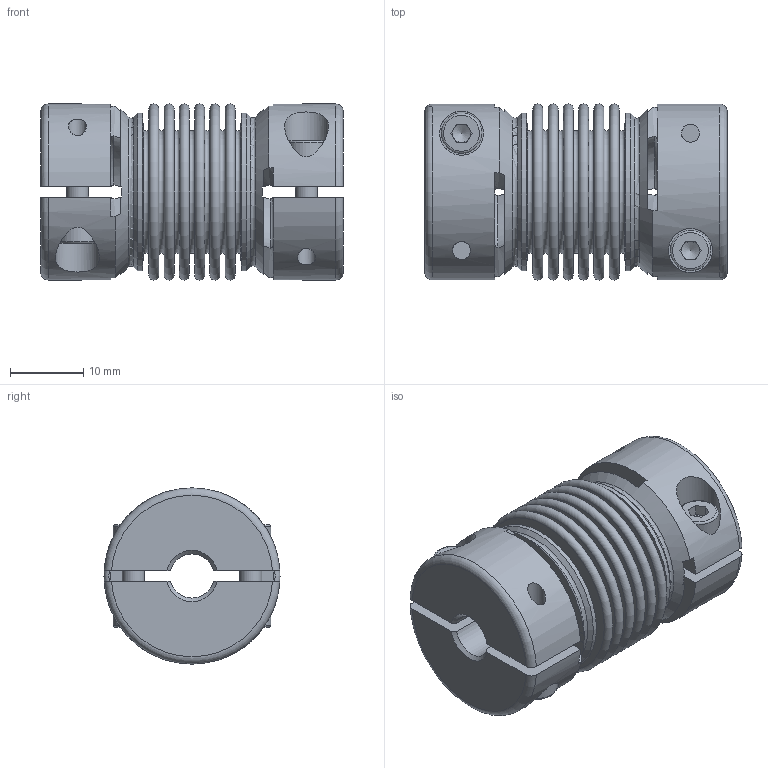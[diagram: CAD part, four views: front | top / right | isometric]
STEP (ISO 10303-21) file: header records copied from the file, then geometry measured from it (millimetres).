
FILE_DESCRIPTION(/* description */ ('Unknown','CAx-IF Rec.Pracs.---Representation and Presentation of Product Manufacturing Information (PMI)---4.0---2014-10-13','CAx-IF Rec.Pracs.---3D Tessellated Geometry---0.4---2014-09-14','2;1'),/* implementation_level */ '2;1');
FILE_NAME(/* name */ 'KG-HS 5 - 6W',/* time_stamp */ '2022-11-25T11:32:19+01:00',/* author */ ('Unknown'),/* organization */ ('Unknown'),/* preprocessor_version */ 'ST-DEVELOPER v18.102',/* originating_system */ 'Solid Edge',/* authorisation */ 'Unknown');
FILE_SCHEMA (('AP242_MANAGED_MODEL_BASED_3D_ENGINEERING_MIM_LF { 1 0 10303 442 1 1 4 }'));
Length unit declared in the file: millimetre
Products named in the file (1): 04824566
Bounding box: 41.2 x 24 x 24 mm (x, y, z)
Volume: 9551.2 mm3; surface area: 13271.6 mm2
Topology: 1 solids, 1 shells, 228 faces, 525 edges, 339 vertices
Faces by surface type: plane 130, torus 42, cylinder 40, cone 16
Full cylindrical faces by diameter (mm): 2.459 x4, 3 x4, 3.4 x4, 5.5 x4, 6 x4, 21 x2, 21.5 x2
Entity records: 8008 total; most frequent: CARTESIAN_POINT 1542, DIRECTION 1032, ORIENTED_EDGE 868, AXIS2_PLACEMENT_3D 436, EDGE_CURVE 434, FACE_BOUND 352, EDGE_LOOP 348, VERTEX_POINT 322
